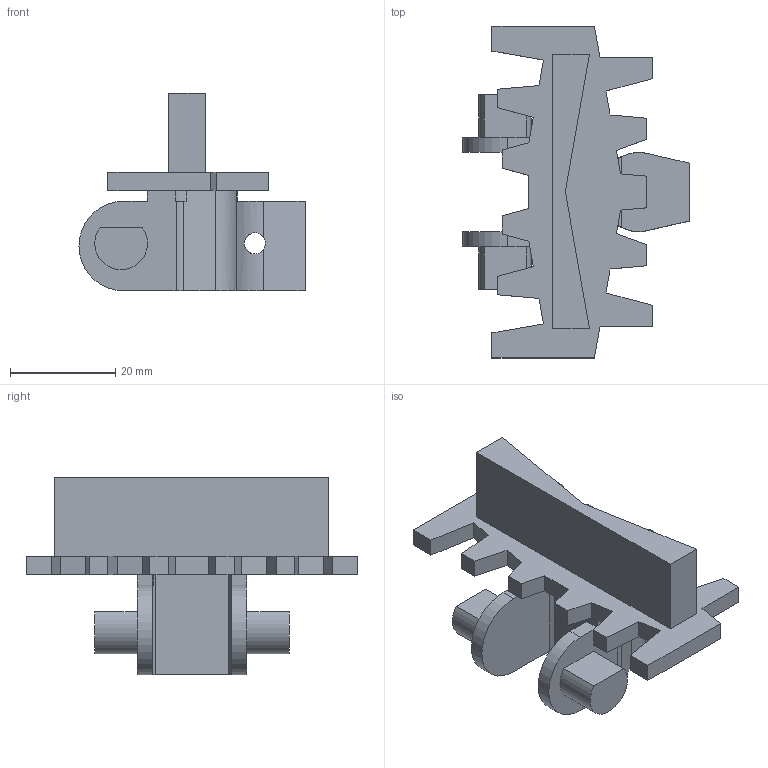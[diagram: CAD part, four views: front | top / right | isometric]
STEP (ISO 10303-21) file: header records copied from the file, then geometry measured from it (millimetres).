
FILE_DESCRIPTION (( 'STEP AP214' ), '1' );
FILE_NAME ('FSCT-5C-H15-P.STEP', '2011-09-28T07:58:30', ( '.' ), ( '' ), 'SwSTEP 2.0', 'SolidWorks 2010', '' );
FILE_SCHEMA (( 'AUTOMOTIVE_DESIGN' ));
Length unit declared in the file: millimetre
Products named in the file (1): FSCT-5C-H15-P
Bounding box: 42.9 x 63 x 37.5 mm (x, y, z)
Volume: 17094.2 mm3; surface area: 9237.4 mm2
Topology: 1 solids, 1 shells, 96 faces, 277 edges, 183 vertices
Faces by surface type: plane 82, cylinder 14
Entity records: 3231 total; most frequent: CARTESIAN_POINT 655, ORIENTED_EDGE 554, DIRECTION 491, EDGE_CURVE 277, VECTOR 241, LINE 241, VERTEX_POINT 183, AXIS2_PLACEMENT_3D 125
